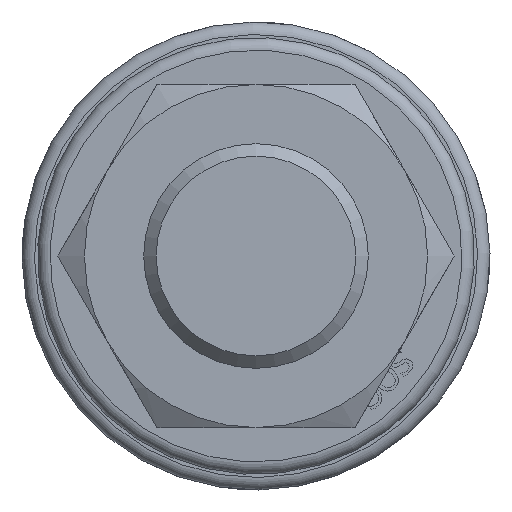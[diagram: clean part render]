
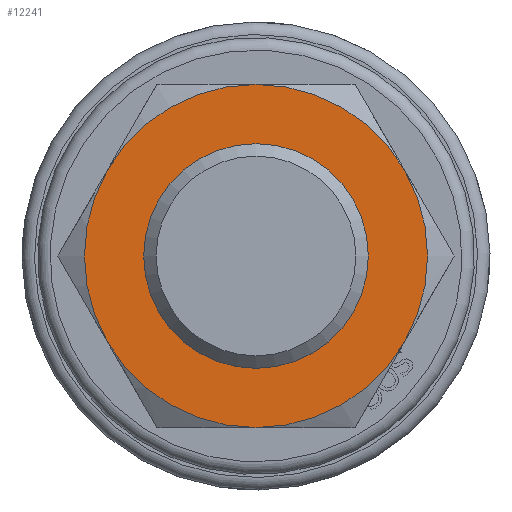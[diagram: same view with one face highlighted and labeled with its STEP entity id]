
A CAD part, front view. The second image highlights one B-rep face of the part: STEP entity #12241.
In plain terms, the highlighted planar face has unit normal (0, -1, 0) as drawn and (-1, 0, 0) by its records, which use the part's own axes.
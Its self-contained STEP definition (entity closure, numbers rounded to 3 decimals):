
#111=CIRCLE('',#12897,18.);
#113=CIRCLE('',#12901,27.5);
#114=CIRCLE('',#12902,27.5);
#115=CIRCLE('',#12903,27.5);
#116=CIRCLE('',#12904,27.5);
#117=CIRCLE('',#12905,27.5);
#118=CIRCLE('',#12906,27.5);
#177=FACE_BOUND('',#2261,.T.);
#1529=FACE_OUTER_BOUND('',#2260,.T.);
#2260=EDGE_LOOP('',(#9658,#9659,#9660,#9661,#9662,#9663));
#2261=EDGE_LOOP('',(#9664));
#5469=VERTEX_POINT('',#18684);
#5471=VERTEX_POINT('',#18690);
#5472=VERTEX_POINT('',#18691);
#5473=VERTEX_POINT('',#18693);
#5474=VERTEX_POINT('',#18695);
#5475=VERTEX_POINT('',#18697);
#5476=VERTEX_POINT('',#18699);
#6976=EDGE_CURVE('',#5469,#5469,#111,.T.);
#6978=EDGE_CURVE('',#5471,#5472,#113,.T.);
#6979=EDGE_CURVE('',#5472,#5473,#114,.T.);
#6980=EDGE_CURVE('',#5473,#5474,#115,.T.);
#6981=EDGE_CURVE('',#5474,#5475,#116,.T.);
#6982=EDGE_CURVE('',#5475,#5476,#117,.T.);
#6983=EDGE_CURVE('',#5476,#5471,#118,.T.);
#9658=ORIENTED_EDGE('',*,*,#6978,.T.);
#9659=ORIENTED_EDGE('',*,*,#6979,.T.);
#9660=ORIENTED_EDGE('',*,*,#6980,.T.);
#9661=ORIENTED_EDGE('',*,*,#6981,.T.);
#9662=ORIENTED_EDGE('',*,*,#6982,.T.);
#9663=ORIENTED_EDGE('',*,*,#6983,.T.);
#9664=ORIENTED_EDGE('',*,*,#6976,.F.);
#11759=PLANE('',#12900);
#12241=ADVANCED_FACE('',(#1529,#177),#11759,.F.);
#12897=AXIS2_PLACEMENT_3D('',#18685,#14078,#14079);
#12900=AXIS2_PLACEMENT_3D('',#18689,#14084,#14085);
#12901=AXIS2_PLACEMENT_3D('',#18692,#14086,#14087);
#12902=AXIS2_PLACEMENT_3D('',#18694,#14088,#14089);
#12903=AXIS2_PLACEMENT_3D('',#18696,#14090,#14091);
#12904=AXIS2_PLACEMENT_3D('',#18698,#14092,#14093);
#12905=AXIS2_PLACEMENT_3D('',#18700,#14094,#14095);
#12906=AXIS2_PLACEMENT_3D('',#18701,#14096,#14097);
#14078=DIRECTION('center_axis',(-1.,0.,0.));
#14079=DIRECTION('ref_axis',(0.,0.,-1.));
#14084=DIRECTION('center_axis',(1.,0.,0.));
#14085=DIRECTION('ref_axis',(0.,0.,-1.));
#14086=DIRECTION('center_axis',(-1.,0.,0.));
#14087=DIRECTION('ref_axis',(0.,1.,0.));
#14088=DIRECTION('center_axis',(-1.,0.,0.));
#14089=DIRECTION('ref_axis',(0.,1.,0.));
#14090=DIRECTION('center_axis',(-1.,0.,0.));
#14091=DIRECTION('ref_axis',(0.,1.,0.));
#14092=DIRECTION('center_axis',(-1.,0.,0.));
#14093=DIRECTION('ref_axis',(0.,1.,0.));
#14094=DIRECTION('center_axis',(-1.,0.,0.));
#14095=DIRECTION('ref_axis',(0.,1.,0.));
#14096=DIRECTION('center_axis',(-1.,0.,0.));
#14097=DIRECTION('ref_axis',(0.,1.,0.));
#18684=CARTESIAN_POINT('',(0.,0.,18.));
#18685=CARTESIAN_POINT('Origin',(0.,0.,0.));
#18689=CARTESIAN_POINT('Origin',(0.,0.,0.));
#18690=CARTESIAN_POINT('',(0.,-23.816,-13.75));
#18691=CARTESIAN_POINT('',(0.,-23.816,13.75));
#18692=CARTESIAN_POINT('Origin',(0.,0.,0.));
#18693=CARTESIAN_POINT('',(0.,0.,27.5));
#18694=CARTESIAN_POINT('Origin',(0.,0.,0.));
#18695=CARTESIAN_POINT('',(0.,23.816,13.75));
#18696=CARTESIAN_POINT('Origin',(0.,0.,0.));
#18697=CARTESIAN_POINT('',(0.,23.816,-13.75));
#18698=CARTESIAN_POINT('Origin',(0.,0.,0.));
#18699=CARTESIAN_POINT('',(0.,0.,-27.5));
#18700=CARTESIAN_POINT('Origin',(0.,0.,0.));
#18701=CARTESIAN_POINT('Origin',(0.,0.,0.));
